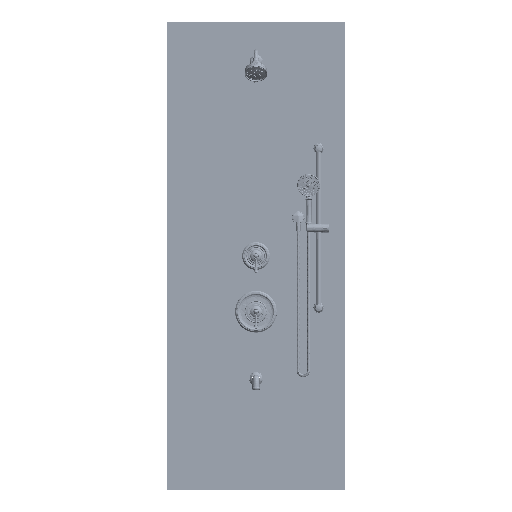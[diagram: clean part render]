
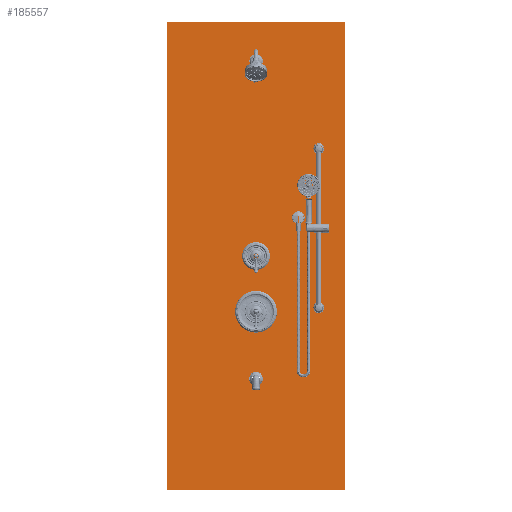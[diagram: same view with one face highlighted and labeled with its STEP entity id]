
A CAD part, top view. The second image highlights one B-rep face of the part: STEP entity #185557.
In plain terms, the highlighted planar face has unit normal (0, 0, 1).
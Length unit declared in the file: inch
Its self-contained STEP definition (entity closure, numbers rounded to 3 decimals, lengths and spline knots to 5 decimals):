
#1999 = CARTESIAN_POINT ( 'NONE',  ( 0., 0., 0. ) ) ;
#5480 = DIRECTION ( 'NONE',  ( 0., -1., 0. ) ) ;
#5817 = FACE_BOUND ( 'NONE', #169483, .T. ) ;
#6613 = VECTOR ( 'NONE', #129496, 39.37008 ) ;
#7003 = DIRECTION ( 'NONE',  ( 0., 0., 1. ) ) ;
#8272 = DIRECTION ( 'NONE',  ( 0., 0., 1. ) ) ;
#10692 = AXIS2_PLACEMENT_3D ( 'NONE', #37539, #8272, #192913 ) ;
#12250 = EDGE_CURVE ( 'NONE', #97234, #40560, #121799, .T. ) ;
#17300 = DIRECTION ( 'NONE',  ( 0., 1., 0. ) ) ;
#19553 = LINE ( 'NONE', #156825, #6613 ) ;
#20136 = ORIENTED_EDGE ( 'NONE', *, *, #87100, .T. ) ;
#20771 = EDGE_CURVE ( 'NONE', #60115, #84308, #67897, .T. ) ;
#29317 = EDGE_LOOP ( 'NONE', ( #30015, #165582 ) ) ;
#30015 = ORIENTED_EDGE ( 'NONE', *, *, #150804, .F. ) ;
#30919 = ORIENTED_EDGE ( 'NONE', *, *, #50081, .F. ) ;
#31282 = CIRCLE ( 'NONE', #105512, 0.75 ) ;
#31873 = CARTESIAN_POINT ( 'NONE',  ( 0., 45., 0. ) ) ;
#37539 = CARTESIAN_POINT ( 'NONE',  ( 0., -12., 0. ) ) ;
#40560 = VERTEX_POINT ( 'NONE', #85254 ) ;
#42097 = DIRECTION ( 'NONE',  ( -1., 0., 0. ) ) ;
#42479 = CIRCLE ( 'NONE', #187527, 1.875 ) ;
#45366 = CARTESIAN_POINT ( 'NONE',  ( 0., 0., 0. ) ) ;
#48119 = EDGE_LOOP ( 'NONE', ( #196563, #30919 ) ) ;
#48533 = LINE ( 'NONE', #96940, #71309 ) ;
#48918 = ORIENTED_EDGE ( 'NONE', *, *, #87930, .T. ) ;
#50081 = EDGE_CURVE ( 'NONE', #159288, #58039, #185153, .T. ) ;
#50965 = DIRECTION ( 'NONE',  ( 1., 0., 0. ) ) ;
#52603 = CARTESIAN_POINT ( 'NONE',  ( -0.75, -12., 0. ) ) ;
#53136 = CARTESIAN_POINT ( 'NONE',  ( 0., 45., 0. ) ) ;
#55242 = EDGE_LOOP ( 'NONE', ( #91093, #20136, #48918, #100979 ) ) ;
#58039 = VERTEX_POINT ( 'NONE', #61427 ) ;
#60115 = VERTEX_POINT ( 'NONE', #115844 ) ;
#61427 = CARTESIAN_POINT ( 'NONE',  ( 1.875, 0., 0. ) ) ;
#62217 = VERTEX_POINT ( 'NONE', #185344 ) ;
#62817 = CARTESIAN_POINT ( 'NONE',  ( 0.75, -12., 0. ) ) ;
#64377 = VERTEX_POINT ( 'NONE', #52603 ) ;
#66212 = EDGE_CURVE ( 'NONE', #84308, #60115, #31282, .T. ) ;
#67054 = CARTESIAN_POINT ( 'NONE',  ( -16., 52., 0. ) ) ;
#67397 = CARTESIAN_POINT ( 'NONE',  ( -16., -32., 0. ) ) ;
#67457 = VERTEX_POINT ( 'NONE', #62817 ) ;
#67897 = CIRCLE ( 'NONE', #180665, 0.75 ) ;
#69377 = FACE_BOUND ( 'NONE', #48119, .T. ) ;
#69463 = CIRCLE ( 'NONE', #82437, 0.75 ) ;
#71275 = CARTESIAN_POINT ( 'NONE',  ( -1.875, 0., 0. ) ) ;
#71309 = VECTOR ( 'NONE', #17300, 39.37008 ) ;
#74825 = EDGE_CURVE ( 'NONE', #40560, #177738, #166596, .T. ) ;
#79326 = DIRECTION ( 'NONE',  ( 0., 0., 1. ) ) ;
#80658 = ORIENTED_EDGE ( 'NONE', *, *, #66212, .F. ) ;
#82068 = CARTESIAN_POINT ( 'NONE',  ( 16., 52., 0. ) ) ;
#82437 = AXIS2_PLACEMENT_3D ( 'NONE', #160415, #7003, #191634 ) ;
#84308 = VERTEX_POINT ( 'NONE', #104661 ) ;
#85254 = CARTESIAN_POINT ( 'NONE',  ( -16., 52., 0. ) ) ;
#87100 = EDGE_CURVE ( 'NONE', #177738, #62217, #19553, .T. ) ;
#87496 = FACE_BOUND ( 'NONE', #29317, .T. ) ;
#87930 = EDGE_CURVE ( 'NONE', #62217, #97234, #48533, .T. ) ;
#91093 = ORIENTED_EDGE ( 'NONE', *, *, #74825, .T. ) ;
#96940 = CARTESIAN_POINT ( 'NONE',  ( 16., 52., 0. ) ) ;
#97234 = VERTEX_POINT ( 'NONE', #82068 ) ;
#99592 = VECTOR ( 'NONE', #5480, 39.37008 ) ;
#100979 = ORIENTED_EDGE ( 'NONE', *, *, #12250, .T. ) ;
#104128 = EDGE_CURVE ( 'NONE', #64377, #67457, #126656, .T. ) ;
#104661 = CARTESIAN_POINT ( 'NONE',  ( -0.75, 45., 0. ) ) ;
#105512 = AXIS2_PLACEMENT_3D ( 'NONE', #31873, #79326, #50965 ) ;
#106654 = CARTESIAN_POINT ( 'NONE',  ( -16., 52., 0. ) ) ;
#113699 = DIRECTION ( 'NONE',  ( 1., 0., 0. ) ) ;
#114699 = DIRECTION ( 'NONE',  ( 0., 0., 1. ) ) ;
#115844 = CARTESIAN_POINT ( 'NONE',  ( 0.75, 45., 0. ) ) ;
#116767 = FACE_OUTER_BOUND ( 'NONE', #55242, .T. ) ;
#121799 = LINE ( 'NONE', #106654, #128973 ) ;
#126656 = CIRCLE ( 'NONE', #10692, 0.75 ) ;
#126918 = ORIENTED_EDGE ( 'NONE', *, *, #20771, .F. ) ;
#127104 = DIRECTION ( 'NONE',  ( 1., 0., 0. ) ) ;
#128973 = VECTOR ( 'NONE', #42097, 39.37008 ) ;
#129496 = DIRECTION ( 'NONE',  ( 1., 0., 0. ) ) ;
#129920 = DIRECTION ( 'NONE',  ( 1., 0., 0. ) ) ;
#137218 = DIRECTION ( 'NONE',  ( 1., 0., 0. ) ) ;
#144625 = CARTESIAN_POINT ( 'NONE',  ( -16., -32., 0. ) ) ;
#145062 = PLANE ( 'NONE',  #145759 ) ;
#145759 = AXIS2_PLACEMENT_3D ( 'NONE', #67397, #190457, #129920 ) ;
#150804 = EDGE_CURVE ( 'NONE', #67457, #64377, #69463, .T. ) ;
#156825 = CARTESIAN_POINT ( 'NONE',  ( -16., -32., 0. ) ) ;
#159288 = VERTEX_POINT ( 'NONE', #71275 ) ;
#160415 = CARTESIAN_POINT ( 'NONE',  ( 0., -12., 0. ) ) ;
#165582 = ORIENTED_EDGE ( 'NONE', *, *, #104128, .F. ) ;
#166596 = LINE ( 'NONE', #67054, #99592 ) ;
#169483 = EDGE_LOOP ( 'NONE', ( #126918, #80658 ) ) ;
#172167 = AXIS2_PLACEMENT_3D ( 'NONE', #1999, #185660, #127104 ) ;
#177738 = VERTEX_POINT ( 'NONE', #144625 ) ;
#180665 = AXIS2_PLACEMENT_3D ( 'NONE', #53136, #114699, #113699 ) ;
#183597 = DIRECTION ( 'NONE',  ( 0., 0., 1. ) ) ;
#183731 = EDGE_CURVE ( 'NONE', #58039, #159288, #42479, .T. ) ;
#185153 = CIRCLE ( 'NONE', #172167, 1.875 ) ;
#185344 = CARTESIAN_POINT ( 'NONE',  ( 16., -32., 0. ) ) ;
#185557 = ADVANCED_FACE ( 'NONE', ( #87496, #5817, #69377, #116767 ), #145062, .T. ) ;
#185660 = DIRECTION ( 'NONE',  ( 0., 0., 1. ) ) ;
#187527 = AXIS2_PLACEMENT_3D ( 'NONE', #45366, #183597, #137218 ) ;
#190457 = DIRECTION ( 'NONE',  ( 0., 0., 1. ) ) ;
#191634 = DIRECTION ( 'NONE',  ( 1., 0., 0. ) ) ;
#192913 = DIRECTION ( 'NONE',  ( 1., 0., 0. ) ) ;
#196563 = ORIENTED_EDGE ( 'NONE', *, *, #183731, .F. ) ;
